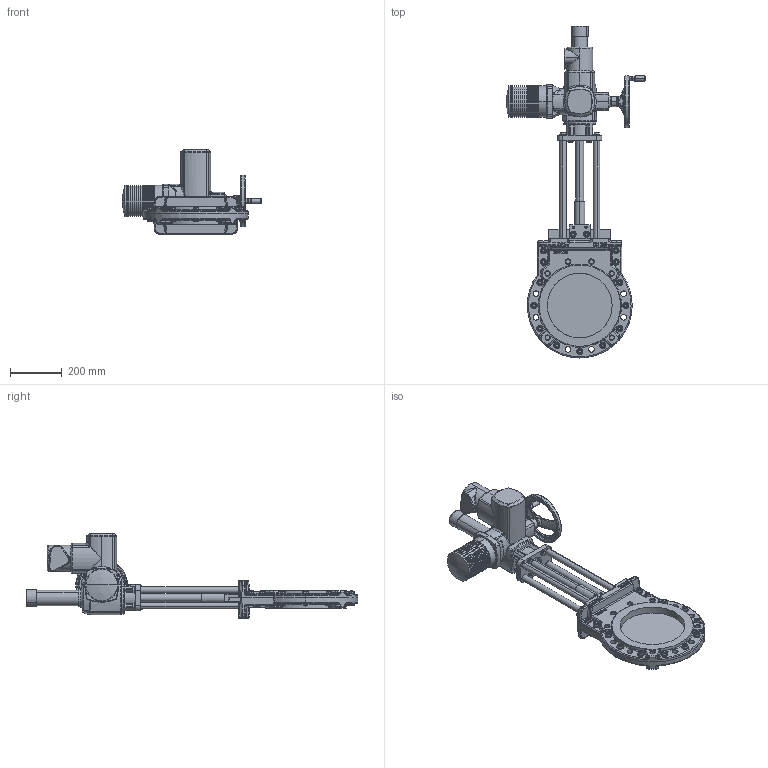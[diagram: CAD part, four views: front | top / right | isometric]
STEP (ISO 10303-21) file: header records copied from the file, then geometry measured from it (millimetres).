
FILE_DESCRIPTION (( 'STEP AP214' ), '1' );
FILE_NAME ('MGE DN 0250 PN10 (SA 10.2).STEP', '2015-09-23T08:40:23', ( 'admin' ), ( 'Hewlett-Packard Company' ), 'SwSTEP 2.0', 'SolidWorks 2013', '' );
FILE_SCHEMA (( 'AUTOMOTIVE_DESIGN' ));
Length unit declared in the file: millimetre
Products named in the file (1): MGE DN 0250 PN10 (SA 10.2)
Bounding box: 537 x 1281.5 x 326.75 mm (x, y, z)
Volume: 17635081.8 mm3; surface area: 1635722.8 mm2
Topology: 79 solids, 91 shells, 3066 faces, 7077 edges, 4233 vertices
Faces by surface type: plane 1063, cylinder 818, cone 558, bspline 375, torus 219, sphere 33
Entity records: 146727 total; most frequent: CARTESIAN_POINT 45176, ORIENTED_EDGE 13978, DIRECTION 13789, EDGE_CURVE 6989, AXIS2_PLACEMENT_3D 5574, VERTEX_POINT 4233, EDGE_LOOP 3382, UNCERTAINTY_MEASURE_WITH_UNIT 3146
